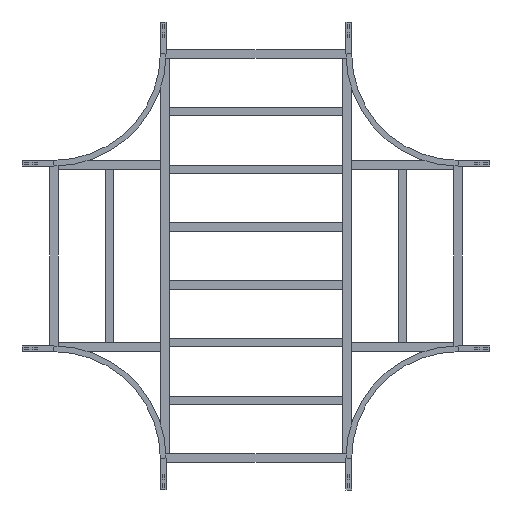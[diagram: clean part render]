
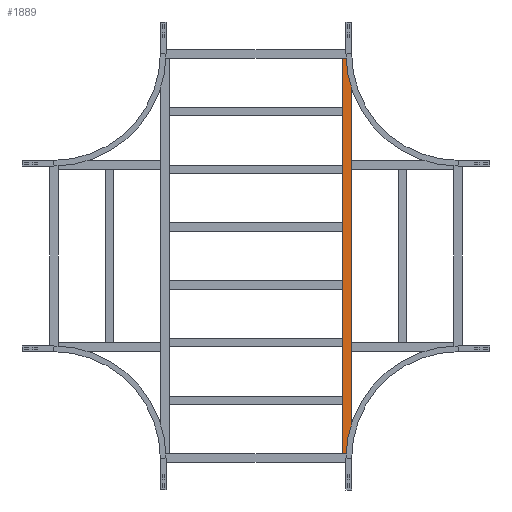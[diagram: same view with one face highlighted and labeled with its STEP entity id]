
A CAD part, front view. The second image highlights one B-rep face of the part: STEP entity #1889.
In plain terms, the highlighted planar face has unit normal (0, -1, 0).
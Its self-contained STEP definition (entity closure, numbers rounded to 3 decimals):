
#119 = VERTEX_POINT ( 'NONE', #2031 ) ;
#203 = VERTEX_POINT ( 'NONE', #1364 ) ;
#212 = VECTOR ( 'NONE', #739, 1000. ) ;
#291 = VERTEX_POINT ( 'NONE', #2864 ) ;
#306 = EDGE_CURVE ( 'NONE', #203, #319, #1677, .T. ) ;
#310 = DIRECTION ( 'NONE',  ( 0., 0., 1. ) ) ;
#319 = VERTEX_POINT ( 'NONE', #1250 ) ;
#340 = CARTESIAN_POINT ( 'NONE',  ( 929.75, 0., 20.25 ) ) ;
#399 = DIRECTION ( 'NONE',  ( -1., 0., 0. ) ) ;
#739 = DIRECTION ( 'NONE',  ( 0., 0., -1. ) ) ;
#1093 = ORIENTED_EDGE ( 'NONE', *, *, #306, .T. ) ;
#1250 = CARTESIAN_POINT ( 'NONE',  ( -929.75, 0., 20.25 ) ) ;
#1364 = CARTESIAN_POINT ( 'NONE',  ( 929.75, 0., 20.25 ) ) ;
#1468 = VECTOR ( 'NONE', #1495, 1000. ) ;
#1495 = DIRECTION ( 'NONE',  ( -1., 0., 0. ) ) ;
#1539 = VECTOR ( 'NONE', #399, 1000. ) ;
#1559 = ORIENTED_EDGE ( 'NONE', *, *, #2911, .T. ) ;
#1576 = LINE ( 'NONE', #2462, #1539 ) ;
#1585 = AXIS2_PLACEMENT_3D ( 'NONE', #1631, #2121, #310 ) ;
#1614 = PLANE ( 'NONE',  #1585 ) ;
#1631 = CARTESIAN_POINT ( 'NONE',  ( 929.75, 0., 20.25 ) ) ;
#1655 = DIRECTION ( 'NONE',  ( 0., 0., -1. ) ) ;
#1657 = FACE_OUTER_BOUND ( 'NONE', #2138, .T. ) ;
#1677 = LINE ( 'NONE', #340, #1468 ) ;
#1818 = ORIENTED_EDGE ( 'NONE', *, *, #1981, .F. ) ;
#1889 = ADVANCED_FACE ( 'NONE', ( #1657 ), #1614, .F. ) ;
#1981 = EDGE_CURVE ( 'NONE', #203, #291, #2791, .T. ) ;
#2031 = CARTESIAN_POINT ( 'NONE',  ( -929.75, 0., -20.25 ) ) ;
#2088 = LINE ( 'NONE', #2742, #2626 ) ;
#2105 = ORIENTED_EDGE ( 'NONE', *, *, #2555, .F. ) ;
#2121 = DIRECTION ( 'NONE',  ( 0., 1., 0. ) ) ;
#2138 = EDGE_LOOP ( 'NONE', ( #1559, #2105, #1818, #1093 ) ) ;
#2462 = CARTESIAN_POINT ( 'NONE',  ( 929.75, 0., -20.25 ) ) ;
#2548 = CARTESIAN_POINT ( 'NONE',  ( 929.75, 0., 20.25 ) ) ;
#2555 = EDGE_CURVE ( 'NONE', #291, #119, #1576, .T. ) ;
#2626 = VECTOR ( 'NONE', #1655, 1000. ) ;
#2742 = CARTESIAN_POINT ( 'NONE',  ( -929.75, 0., 20.25 ) ) ;
#2791 = LINE ( 'NONE', #2548, #212 ) ;
#2864 = CARTESIAN_POINT ( 'NONE',  ( 929.75, 0., -20.25 ) ) ;
#2911 = EDGE_CURVE ( 'NONE', #319, #119, #2088, .T. ) ;
